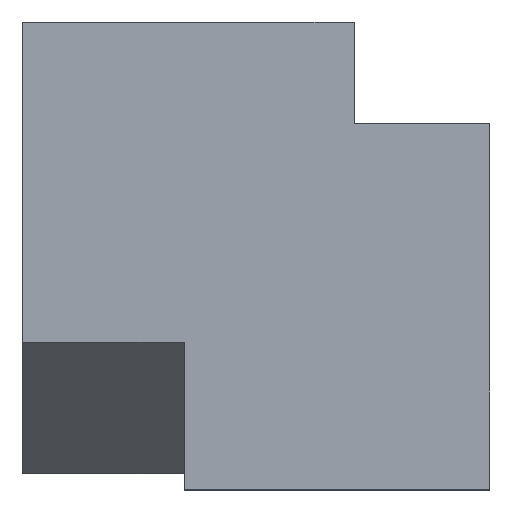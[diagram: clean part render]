
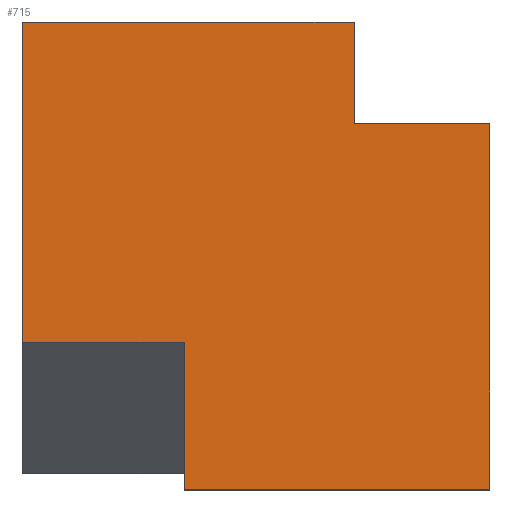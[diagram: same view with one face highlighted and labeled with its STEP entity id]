
A CAD part, top view. The second image highlights one B-rep face of the part: STEP entity #715.
In plain terms, the highlighted planar face has unit normal (0, 0, 1).
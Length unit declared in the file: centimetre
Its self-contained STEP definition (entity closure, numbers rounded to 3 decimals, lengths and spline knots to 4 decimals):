
#12 = FACE_OUTER_BOUND ( 'NONE', #227, .T. ) ;
#15 = LINE ( 'NONE', #619, #574 ) ;
#25 = ORIENTED_EDGE ( 'NONE', *, *, #125, .F. ) ;
#40 = VECTOR ( 'NONE', #849, 100. ) ;
#54 = CARTESIAN_POINT ( 'NONE',  ( 1000., 782.762, 1000. ) ) ;
#83 = CARTESIAN_POINT ( 'NONE',  ( 709.9393, 782.762, 1000. ) ) ;
#125 = EDGE_CURVE ( 'NONE', #790, #770, #878, .T. ) ;
#152 = VECTOR ( 'NONE', #278, 100. ) ;
#156 = PLANE ( 'NONE',  #841 ) ;
#171 = VERTEX_POINT ( 'NONE', #732 ) ;
#173 = LINE ( 'NONE', #614, #404 ) ;
#190 = ORIENTED_EDGE ( 'NONE', *, *, #655, .T. ) ;
#203 = CARTESIAN_POINT ( 'NONE',  ( 0., 0., 1000. ) ) ;
#207 = CARTESIAN_POINT ( 'NONE',  ( 346.3663, 315.0433, 1000. ) ) ;
#227 = EDGE_LOOP ( 'NONE', ( #25, #691, #898, #934, #190, #735, #826, #318 ) ) ;
#235 = DIRECTION ( 'NONE',  ( 0., 1., 0. ) ) ;
#246 = DIRECTION ( 'NONE',  ( 0., 1., 0. ) ) ;
#267 = LINE ( 'NONE', #720, #917 ) ;
#278 = DIRECTION ( 'NONE',  ( 1., 0., 0. ) ) ;
#282 = CARTESIAN_POINT ( 'NONE',  ( 0., 1000., 1000. ) ) ;
#318 = ORIENTED_EDGE ( 'NONE', *, *, #781, .T. ) ;
#324 = VERTEX_POINT ( 'NONE', #525 ) ;
#337 = CARTESIAN_POINT ( 'NONE',  ( 346.3663, 0., 1000. ) ) ;
#356 = VECTOR ( 'NONE', #511, 100. ) ;
#372 = EDGE_CURVE ( 'NONE', #382, #171, #598, .T. ) ;
#382 = VERTEX_POINT ( 'NONE', #602 ) ;
#404 = VECTOR ( 'NONE', #537, 100. ) ;
#425 = CARTESIAN_POINT ( 'NONE',  ( 0., 315.0433, 1000. ) ) ;
#429 = LINE ( 'NONE', #203, #152 ) ;
#461 = DIRECTION ( 'NONE',  ( 0., 0., 1. ) ) ;
#491 = VERTEX_POINT ( 'NONE', #54 ) ;
#511 = DIRECTION ( 'NONE',  ( -1., 0., 0. ) ) ;
#515 = VERTEX_POINT ( 'NONE', #639 ) ;
#518 = DIRECTION ( 'NONE',  ( -1., 0., 0. ) ) ;
#525 = CARTESIAN_POINT ( 'NONE',  ( 346.3663, 0., 1000. ) ) ;
#531 = VECTOR ( 'NONE', #518, 100. ) ;
#537 = DIRECTION ( 'NONE',  ( -1., 0., 0. ) ) ;
#540 = EDGE_CURVE ( 'NONE', #171, #835, #592, .T. ) ;
#557 = CARTESIAN_POINT ( 'NONE',  ( 0., 1000., 1000. ) ) ;
#574 = VECTOR ( 'NONE', #246, 100. ) ;
#591 = VECTOR ( 'NONE', #235, 100. ) ;
#592 = LINE ( 'NONE', #282, #531 ) ;
#598 = LINE ( 'NONE', #83, #591 ) ;
#602 = CARTESIAN_POINT ( 'NONE',  ( 709.9393, 782.762, 1000. ) ) ;
#614 = CARTESIAN_POINT ( 'NONE',  ( 709.9393, 782.762, 1000. ) ) ;
#619 = CARTESIAN_POINT ( 'NONE',  ( 1000., 1000., 1000. ) ) ;
#639 = CARTESIAN_POINT ( 'NONE',  ( 1000., 0., 1000. ) ) ;
#655 = EDGE_CURVE ( 'NONE', #491, #382, #173, .T. ) ;
#688 = DIRECTION ( 'NONE',  ( 1., 0., 0. ) ) ;
#691 = ORIENTED_EDGE ( 'NONE', *, *, #820, .F. ) ;
#715 = ADVANCED_FACE ( 'NONE', ( #12 ), #156, .T. ) ;
#720 = CARTESIAN_POINT ( 'NONE',  ( 0., 1000., 1000. ) ) ;
#728 = EDGE_CURVE ( 'NONE', #515, #491, #15, .T. ) ;
#732 = CARTESIAN_POINT ( 'NONE',  ( 709.9393, 1000., 1000. ) ) ;
#735 = ORIENTED_EDGE ( 'NONE', *, *, #372, .T. ) ;
#770 = VERTEX_POINT ( 'NONE', #425 ) ;
#781 = EDGE_CURVE ( 'NONE', #835, #770, #267, .T. ) ;
#783 = DIRECTION ( 'NONE',  ( 0., -1., 0. ) ) ;
#790 = VERTEX_POINT ( 'NONE', #922 ) ;
#820 = EDGE_CURVE ( 'NONE', #324, #790, #855, .T. ) ;
#826 = ORIENTED_EDGE ( 'NONE', *, *, #540, .T. ) ;
#835 = VERTEX_POINT ( 'NONE', #557 ) ;
#841 = AXIS2_PLACEMENT_3D ( 'NONE', #912, #461, #688 ) ;
#849 = DIRECTION ( 'NONE',  ( 0., 1., 0. ) ) ;
#855 = LINE ( 'NONE', #337, #40 ) ;
#878 = LINE ( 'NONE', #207, #356 ) ;
#898 = ORIENTED_EDGE ( 'NONE', *, *, #907, .T. ) ;
#907 = EDGE_CURVE ( 'NONE', #324, #515, #429, .T. ) ;
#912 = CARTESIAN_POINT ( 'NONE',  ( 0., 0., 1000. ) ) ;
#917 = VECTOR ( 'NONE', #783, 100. ) ;
#922 = CARTESIAN_POINT ( 'NONE',  ( 346.3663, 315.0433, 1000. ) ) ;
#934 = ORIENTED_EDGE ( 'NONE', *, *, #728, .T. ) ;
